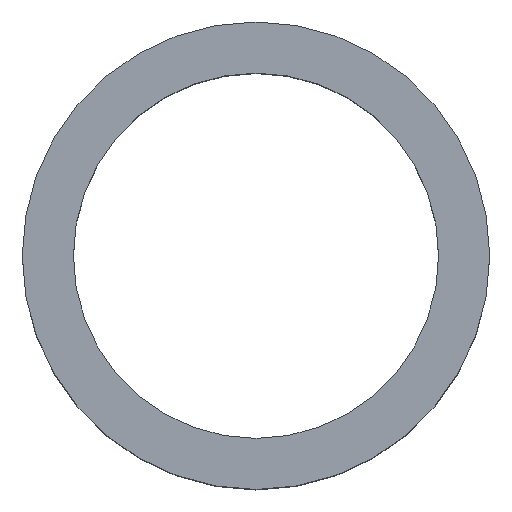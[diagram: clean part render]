
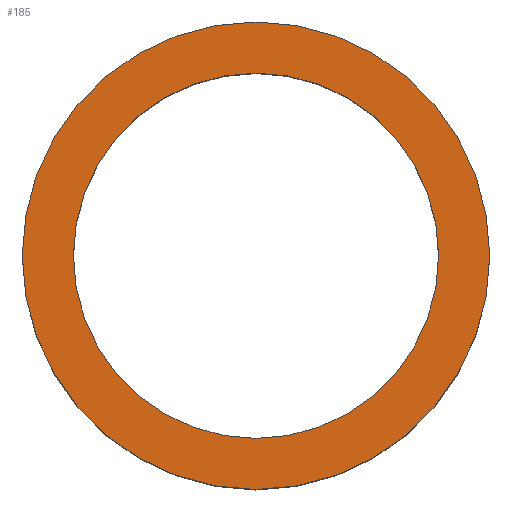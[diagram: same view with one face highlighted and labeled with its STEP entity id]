
A CAD part, top view. The second image highlights one B-rep face of the part: STEP entity #185.
In plain terms, the highlighted planar face has unit normal (0, 0, 1).
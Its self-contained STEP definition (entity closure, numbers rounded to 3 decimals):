
#185=ADVANCED_FACE('',(#211,#212),#209,.T.);
#209=PLANE('',#442);
#211=FACE_BOUND('',#215,.T.);
#212=FACE_BOUND('',#216,.T.);
#215=EDGE_LOOP('',(#241,#242));
#216=EDGE_LOOP('',(#243,#244));
#241=ORIENTED_EDGE('',*,*,#363,.T.);
#242=ORIENTED_EDGE('',*,*,#364,.T.);
#243=ORIENTED_EDGE('',*,*,#365,.F.);
#244=ORIENTED_EDGE('',*,*,#366,.F.);
#337=VERTEX_POINT('',#614);
#338=VERTEX_POINT('',#615);
#339=VERTEX_POINT('',#618);
#340=VERTEX_POINT('',#619);
#363=EDGE_CURVE('',#337,#338,#411,.T.);
#364=EDGE_CURVE('',#338,#337,#412,.T.);
#365=EDGE_CURVE('',#339,#340,#413,.T.);
#366=EDGE_CURVE('',#340,#339,#414,.T.);
#411=CIRCLE('',#438,16.);
#412=CIRCLE('',#439,16.);
#413=CIRCLE('',#440,12.5);
#414=CIRCLE('',#441,12.5);
#438=AXIS2_PLACEMENT_3D('',#613,#490,#491);
#439=AXIS2_PLACEMENT_3D('',#616,#492,#493);
#440=AXIS2_PLACEMENT_3D('',#617,#494,#495);
#441=AXIS2_PLACEMENT_3D('',#620,#496,#497);
#442=AXIS2_PLACEMENT_3D('',#621,#498,#499);
#490=DIRECTION('',(0.,0.,1.));
#491=DIRECTION('',(0.,-1.,0.));
#492=DIRECTION('',(0.,0.,1.));
#493=DIRECTION('',(0.,1.,0.));
#494=DIRECTION('',(0.,0.,1.));
#495=DIRECTION('',(0.,1.,0.));
#496=DIRECTION('',(0.,0.,1.));
#497=DIRECTION('',(0.,-1.,0.));
#498=DIRECTION('',(0.,0.,1.));
#499=DIRECTION('',(0.,-1.,0.));
#613=CARTESIAN_POINT('',(0.,0.,20.));
#614=CARTESIAN_POINT('',(16.,0.,20.));
#615=CARTESIAN_POINT('',(-16.,0.,20.));
#616=CARTESIAN_POINT('',(0.,0.,20.));
#617=CARTESIAN_POINT('',(0.,0.,20.));
#618=CARTESIAN_POINT('',(-12.5,0.,20.));
#619=CARTESIAN_POINT('',(12.5,0.,20.));
#620=CARTESIAN_POINT('',(0.,0.,20.));
#621=CARTESIAN_POINT('',(0.,0.,20.));
